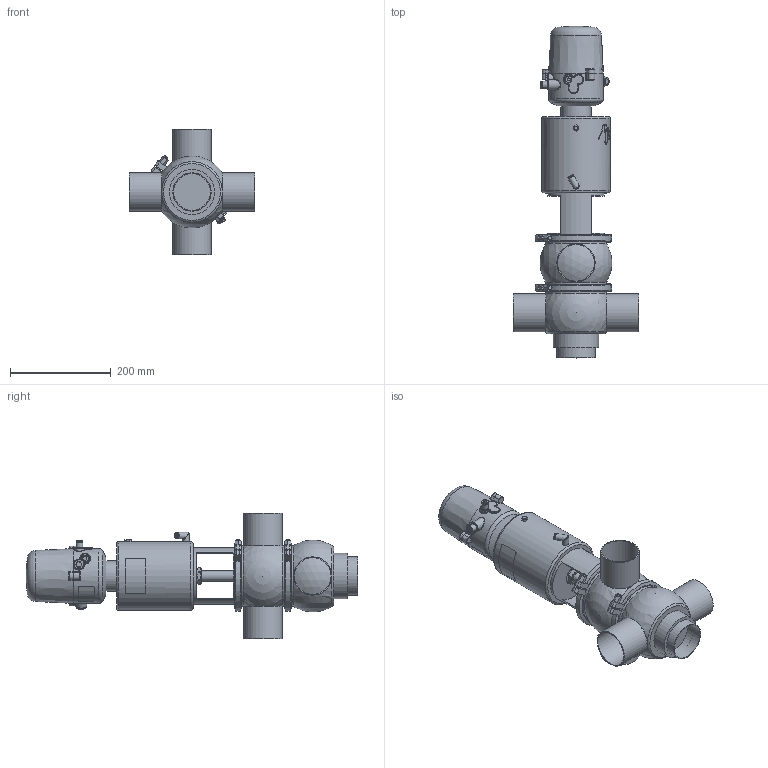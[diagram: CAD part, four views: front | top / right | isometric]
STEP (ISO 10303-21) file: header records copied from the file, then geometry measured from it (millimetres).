
FILE_DESCRIPTION (( 'STEP AP214' ), '1' );
FILE_NAME ('INNOVA K G W OD 3 T3 AS NC & C-TOP S_10.240.16.0082.STEP', '2024-08-06T09:06:18', ( '' ), ( '' ), 'SwSTEP 2.0', 'SolidWorks 2023', '' );
FILE_SCHEMA (( 'AUTOMOTIVE_DESIGN' ));
Length unit declared in the file: millimetre
Products named in the file (8): 10.240.15.0010_DN 080; 10.240.15.0003_OD 3"; 10.240.15.0017_Estàndard; 10.240.15.0014_T3 AS P0; 10.426.15.0001_C-TOP S - 1 EV; 10.240.15.0007_OD 3"; INNOVA K G W OD 3 T3 AS NC & C-TOP S_10.240.16.0082; 10.240.15.0001_DN 080
Assembly tree (8 placements, depth 2):
  INNOVA K G W OD 3 T3 AS NC & C-TOP S_10.240.16.0082
    10.240.15.0007_OD 3"
    10.240.15.0003_OD 3"
    10.240.15.0010_DN 080
    10.240.15.0014_T3 AS P0
    10.240.15.0017_Estàndard
    10.426.15.0001_C-TOP S - 1 EV
    10.240.15.0001_DN 080  x2
Bounding box: 250 x 660 x 250 mm (x, y, z)
Volume: 6855566.6 mm3; surface area: 586341.6 mm2
Topology: 8 solids, 8 shells, 1180 faces, 2847 edges, 1897 vertices
Faces by surface type: plane 412, cylinder 360, cone 201, bspline 160, torus 37, sphere 10
Full cylindrical faces by diameter (mm): 0.371 x17, 0.512 x16, 0.658 x16, 0.795 x16, 0.94 x15, 1.098 x15, 1.241 x13, 1.382 x13, 1.523 x11, 1.669 x10, 2.201 x1, 4 x2, 5.5 x2, 6 x2, 6.15 x1, 8 x6, 8.5 x1, 10 x1, 10.5 x1, 11 x2, 12.5 x3, 13 x2, 13.5 x2, 16 x1, 17 x3, 20 x3, 20.5 x1, 22 x2, 31 x1, 34.5 x3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
Entity records: 58195 total; most frequent: CARTESIAN_POINT 27864, ORIENTED_EDGE 4524, DIRECTION 3679, EDGE_CURVE 2262, VERTEX_POINT 1613, EDGE_LOOP 1587, AXIS2_PLACEMENT_3D 1511, FACE_OUTER_BOUND 1343
